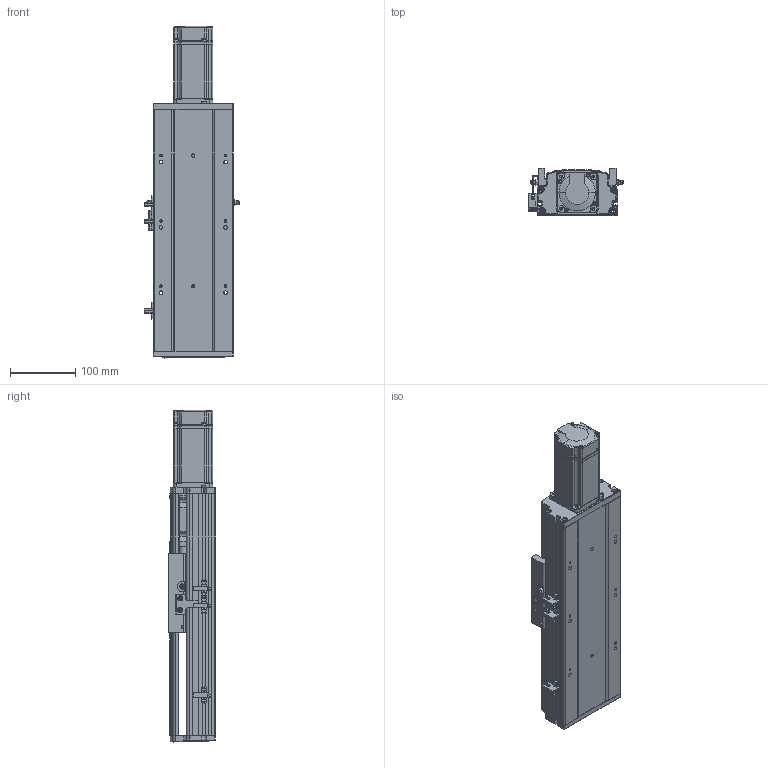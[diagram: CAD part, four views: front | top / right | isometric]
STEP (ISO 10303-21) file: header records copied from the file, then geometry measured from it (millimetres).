
FILE_DESCRIPTION (( 'STEP AP203' ), '1' );
FILE_NAME ('RYK120-L1610-S100-M40-C3-MK.STEP', '2026-03-09T08:09:30', ( '' ), ( '' ), 'SwSTEP 2.0', 'SolidWorks 2016', '' );
FILE_SCHEMA (( 'CONFIG_CONTROL_DESIGN' ));
Length unit declared in the file: millimetre
Products named in the file (17): RYK120-300-MK-菁釱-啞_100; 15; 滅袉蝶18-10; RY120外置感应片(140共用）; 侂狟400W侜督萇儂; 覜茼ん672; RYK170-薊粣ん芵隴裔啣; RY120电机端支撑座-压铸加工-M5; RYK120-300-MK-奻裔啣-啞_100; 2.10.1.C521-V1.0RY120臏賑輸16蹟譫-啞-JZZY-NRL-L1899; 44-49-12-14; RY120綴裔啣; CB╱T 3762-1996[锥形润滑油嘴1-ZM10×1]_1-ZM10×1; RYK120-L1610-S100-M40-C3-MK; RY120-16螺母油路-集中注油组合; RY120QGB-1.8; 滅袉蝶18-24
Assembly tree (21 placements, depth 3):
  RYK120-L1610-S100-M40-C3-MK
    RYK120-300-MK-菁釱-啞_100
    RYK120-300-MK-奻裔啣-啞_100
    RY120綴裔啣
    滅袉蝶18-24  x2
    滅袉蝶18-10  x2
    覜茼ん672  x3
    RY120外置感应片(140共用）
    RY120QGB-1.8
    RY120-16螺母油路-集中注油组合
      2.10.1.C521-V1.0RY120臏賑輸16蹟譫-啞-JZZY-NRL-L1899
      CB╱T 3762-1996[锥形润滑油嘴1-ZM10×1]_1-ZM10×1  x2
    RY120电机端支撑座-压铸加工-M5
    RYK170-薊粣ん芵隴裔啣
    44-49-12-14
    侂狟400W侜督萇儂
      15
Bounding box: 145.7 x 73 x 508.5 mm (x, y, z)
Volume: 1733826 mm3; surface area: 532828.2 mm2
Topology: 23 solids, 23 shells, 2338 faces, 6454 edges, 4143 vertices
Faces by surface type: plane 1161, cylinder 839, cone 211, bspline 127
Entity records: 76658 total; most frequent: CARTESIAN_POINT 21496, ORIENTED_EDGE 11504, DIRECTION 10627, EDGE_CURVE 5752, VERTEX_POINT 3755, AXIS2_PLACEMENT_3D 3598, LINE 3431, VECTOR 3431
